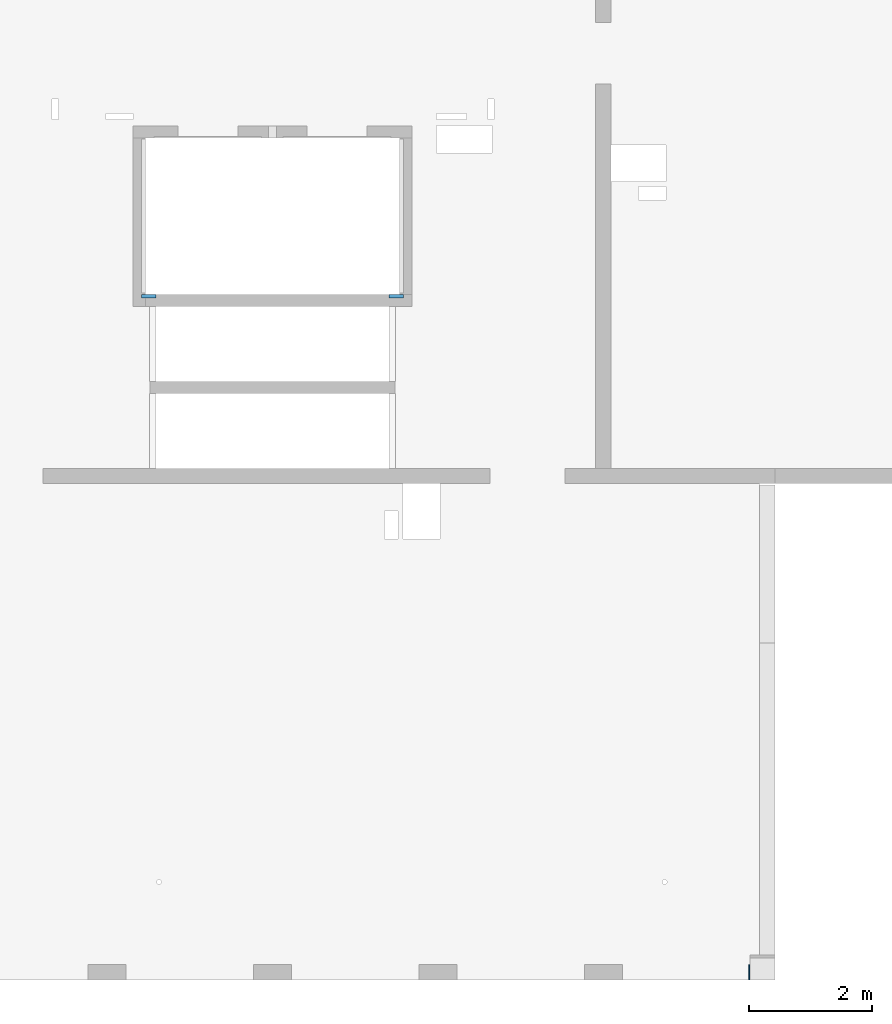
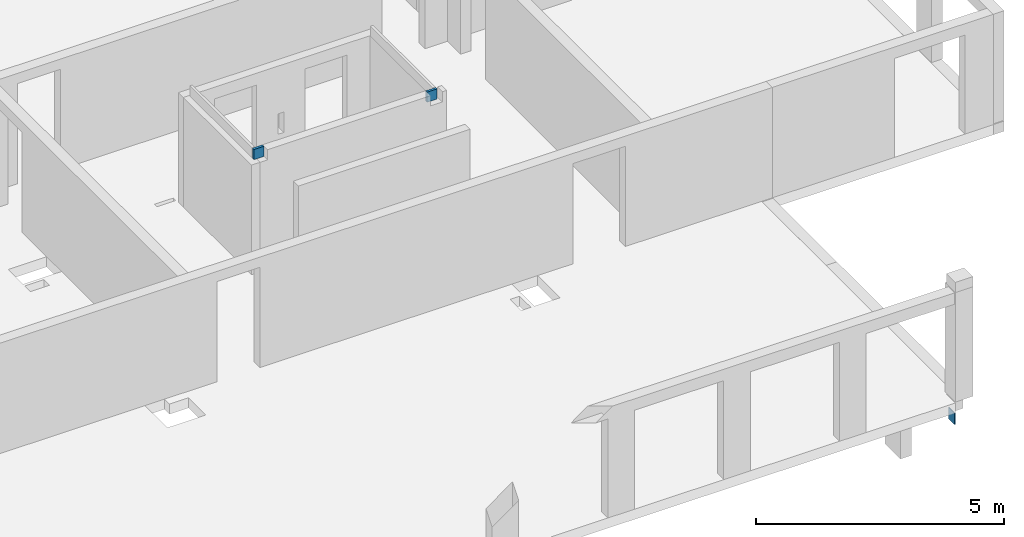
# One storey, part 11 of 12: 3 walls.
"""IFC2X3 building model written with IfcOpenShell, lengths in millimetres."""

from ifc_helpers import new_model, entity, si_unit, converted_unit, derived_unit, direction, frame, frame_2d, origin, place, context, subcontext, project, spatial, rectangle, extrude, material, layer, layer_set, layer_usage, type_object, element, save


model = new_model("IFC2X3")

# Units and contexts
model_context = context("Model", 3, precision=0.01, world=origin(), true_north=direction((6.12303176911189e-17, 1.0)))
body_context = subcontext(model_context, "Body", "Model", "MODEL_VIEW")
ifc_project = project(units=[si_unit("LENGTHUNIT", "METRE", prefix="MILLI"), si_unit("AREAUNIT", "SQUARE_METRE"), si_unit("VOLUMEUNIT", "CUBIC_METRE"), converted_unit("PLANEANGLEUNIT", "DEGREE", entity("IfcRatioMeasure", 0.0174532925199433), si_unit("PLANEANGLEUNIT", "RADIAN"), dimensions=[0, 0, 0, 0, 0, 0, 0]), si_unit("MASSUNIT", "GRAM", prefix="KILO"), derived_unit("MASSDENSITYUNIT", [(si_unit("MASSUNIT", "GRAM", prefix="KILO"), 1), (si_unit("LENGTHUNIT", "METRE"), -3)]), si_unit("TIMEUNIT", "SECOND"), si_unit("FREQUENCYUNIT", "HERTZ"), si_unit("THERMODYNAMICTEMPERATUREUNIT", "DEGREE_CELSIUS"), derived_unit("THERMALTRANSMITTANCEUNIT", [(si_unit("MASSUNIT", "GRAM", prefix="KILO"), 1), (si_unit("THERMODYNAMICTEMPERATUREUNIT", "KELVIN"), -1), (si_unit("TIMEUNIT", "SECOND"), -3)]), derived_unit("VOLUMETRICFLOWRATEUNIT", [(si_unit("LENGTHUNIT", "METRE"), 3), (si_unit("TIMEUNIT", "SECOND"), -1)]), si_unit("ELECTRICCURRENTUNIT", "AMPERE"), si_unit("ELECTRICVOLTAGEUNIT", "VOLT"), si_unit("POWERUNIT", "WATT"), si_unit("FORCEUNIT", "NEWTON", prefix="KILO"), si_unit("ILLUMINANCEUNIT", "LUX"), si_unit("LUMINOUSFLUXUNIT", "LUMEN"), si_unit("LUMINOUSINTENSITYUNIT", "CANDELA"), derived_unit("USERDEFINED", [(si_unit("MASSUNIT", "GRAM", prefix="KILO"), -1), (si_unit("LENGTHUNIT", "METRE"), -2), (si_unit("TIMEUNIT", "SECOND"), 3), (si_unit("LUMINOUSFLUXUNIT", "LUMEN"), 1)]), derived_unit("LINEARVELOCITYUNIT", [(si_unit("LENGTHUNIT", "METRE"), 1), (si_unit("TIMEUNIT", "SECOND"), -1)]), si_unit("PRESSUREUNIT", "PASCAL"), derived_unit("USERDEFINED", [(si_unit("LENGTHUNIT", "METRE"), -2), (si_unit("MASSUNIT", "GRAM", prefix="KILO"), 1), (si_unit("TIMEUNIT", "SECOND"), -2)])], contexts=[model_context])

# Site, building, storey
site_placement = place(None, origin())
site = spatial("IfcSite", under=ifc_project, at=site_placement, Name="Default", CompositionType="ELEMENT")
building_placement = place(site_placement, origin())
building = spatial("IfcBuilding", under=site, at=building_placement, Name="niet gebruiken", CompositionType="ELEMENT")
storey_placement = place(building_placement, frame((0.0, 0.0, 30420.0)))
storey = spatial("IfcBuildingStorey", under=building, at=storey_placement, Name="10 tiende verdieping", CompositionType="ELEMENT", Elevation=30420.0)

# Walls
ifc_material_1 = material(Name="NLRS_f2_beton ihwg")
ifc_layer_1 = layer(ifc_material_1, 250.0)
ifc_layer_set_1 = layer_set([ifc_layer_1], Name="Basic Wall:NLRS_21.21_WA_beton ihwg d=250_gen")
ifc_layer_usage_1 = layer_usage(ifc_layer_set_1, "AXIS2", "NEGATIVE", 125.0)
wall_type_1 = type_object("IfcWallType", Name="Basic Wall:NLRS_21.21_WA_beton ihwg d=250_gen", PredefinedType="STANDARD", material=ifc_layer_set_1)
wall_1_placement = place(storey_placement, frame((99570.0, 28881.0, -620.0)))
element("IfcWallStandardCase", 1, at=wall_1_placement, inside=storey, type_object=wall_type_1, material=ifc_layer_usage_1, Name="Basic Wall:NLRS_21.21_WA_beton ihwg d=250_gen", ObjectType="Basic Wall:NLRS_21.21_WA_beton ihwg d=250_gen", context=body_context, shape_type="SweptSolid", body=[
    extrude(rectangle(XDim=19.9999999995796, YDim=250.000000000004, at=frame_2d((9.99999999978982, 1.63424829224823e-13), x_axis=(-1.0, 0.0))), origin(), (0.0, 0.0, 1.0), 280.000000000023),
])
ifc_material_2 = material(Name="NLRS_f2_beton prefab")
ifc_layer_2 = layer(ifc_material_2, 60.0)
ifc_layer_set_2 = layer_set([ifc_layer_2], Name="Basic Wall:NLRS_22.21_WA_beton prefab d=60_gen")
ifc_layer_usage_2 = layer_usage(ifc_layer_set_2, "AXIS2", "NEGATIVE", 30.0)
wall_type_2 = type_object("IfcWallType", Name="Basic Wall:NLRS_22.21_WA_beton prefab d=60_gen", PredefinedType="STANDARD", material=ifc_layer_set_2)
wall_2_placement = place(storey_placement, frame((89665.02321398, 39916.0, 2630.0)))
element("IfcWallStandardCase", 2, at=wall_2_placement, inside=storey, type_object=wall_type_2, material=ifc_layer_usage_2, Name="Basic Wall:NLRS_22.21_WA_beton prefab d=60_gen", ObjectType="Basic Wall:NLRS_22.21_WA_beton prefab d=60_gen", context=body_context, shape_type="SweptSolid", body=[
    extrude(rectangle(XDim=234.976753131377, YDim=60.0000000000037, at=frame_2d((117.488376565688, -4.12292422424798e-12), x_axis=(-1.0, 0.0))), origin(), (0.0, 0.0, 1.0), 250.000000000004),
])
ifc_layer_usage_3 = layer_usage(ifc_layer_set_2, "AXIS2", "POSITIVE", -30.0)
wall_3_placement = place(storey_placement, frame((93934.9767860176, 39916.0, 2630.0), z_axis=(0.0, 0.0, 1.0), x_axis=(-1.0, 0.0, 0.0)))
element("IfcWallStandardCase", 3, at=wall_3_placement, inside=storey, type_object=wall_type_2, material=ifc_layer_usage_3, Name="Basic Wall:NLRS_22.21_WA_beton prefab d=60_gen", ObjectType="Basic Wall:NLRS_22.21_WA_beton prefab d=60_gen", context=body_context, shape_type="SweptSolid", body=[
    extrude(rectangle(XDim=234.976753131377, YDim=60.0000000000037, at=frame_2d((117.488376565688, 4.12114786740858e-12), x_axis=(-1.0, 0.0))), origin(), (0.0, 0.0, 1.0), 250.000000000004),
])

save(model, "model.ifc")
